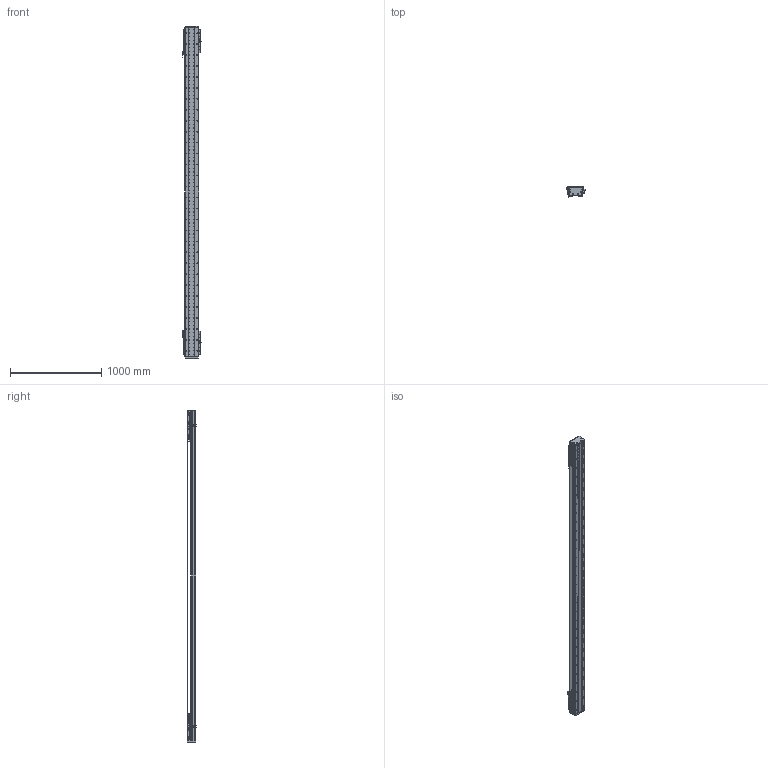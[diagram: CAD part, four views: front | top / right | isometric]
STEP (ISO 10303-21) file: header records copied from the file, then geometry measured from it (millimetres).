
FILE_DESCRIPTION (( 'STEP AP203' ), '1' );
FILE_NAME ('DA-C145-2-C3-T3020-C010-0.2 眻盄萇儂.STEP', '2025-08-14T00:39:28', ( '' ), ( '' ), 'SwSTEP 2.0', 'SolidWorks 2019', '' );
FILE_SCHEMA (( 'CONFIG_CONTROL_DESIGN' ));
Length unit declared in the file: millimetre
Products named in the file (38): 复件 内六角平端紧定螺钉 GB.T77-2000 M5×10^CU145-W 滚珠滑台; IU-CU145-L 菁釱絳寢; 葩璃 CKM03-W060-C1C2-TP-0.2^DA-C145-2-C3-T-C010-0.2; 66245-CU145-HT-W-00 賑雄怢啣(3D芞祧)(00); CU145-W 幗紩賑怢; 葩璃 PM-Y65^DA-C145-2-C3-T-C010-0.2; CU145-W 幗紩賑怢-1; 葩璃 CKMA01-W060-TRL^DA-C145-2-C3-T-C010-0.2; CU145-W-00 珨极趙賑雄怢啣; 葩璃 DA95-GT-T-00^IU-CU145-L 菁釱絳寢; 复件 DA146 钢带拉块^复件 CU145 钢带组件_DA-C145-2-C3-T-C010-0.2; 复件 纯铜油杯 6x6mm^CU145-W 滚珠滑台; TAY01-M8; 复件 DA95-HK-GT-00 滑块钢轨^CU145-W-00 一体化滑动台板; 复件 DA145-C3-YB-B-00 压板B^CU145-W 滚珠滑台; DA-C145-2-C3-T3020-C010-0.2 眻盄萇儂; 复件 半圆头内六角螺钉 M3×6^CU145-W 滚珠滑台; 葩璃 XD-U-02L 棠掑喜^DA-C145-2-C3-T-C010-0.2; 复件 DA145-DG 钢带端盖^复件 CU145 钢带组件_DA-C145-2-C3-T-C010-0.2; 葩璃 DMA-010-0.2 黍杅芛^DA-C145-2-C3-T-C010-0.2; 复件 DA146 钢带垫块^复件 CU145 钢带组件_DA-C145-2-C3-T-C010-0.2; 复件 DA95-DB-00  挡板^CU145-W 滚珠滑台; 葩璃 CU145 詩湍郪璃^DA-C145-2-C3-T-C010-0.2; IU-CU145-L-00 菁釱(L3600); DKW-GYP-ZJ-00 笢潔嫖萇覜茼え; 葩璃 DA145-C3-DP-B-00 菜えB^CU145-W 幗紩賑怢; DKW168-HXJ-ZJ-00 笢潔滅袉砎蝶; 复件 DA145-C3-YB-A-00 压板A^CU145-W 滚珠滑台; 复件 DA145-GYP-00 光电感应片^DA-C145-2-C3-T-C010-0.2; 葩璃 PM-T45^DA-C145-2-C3-T-C010-0.2; 葩璃 DA145-C3-DP-A-00 菜えA^CU145-W 幗紩賑怢; DKW-KGZ-ZJ-00 中间光电开关支架; 葩璃 DA95-HXJ-00 遣喳砎蝶^DA-C145-2-C3-T-C010-0.2; 复件 DA145 钢带^复件 CU145 钢带组件_DA-C145-2-C3-T-C010-0.2; 复件 DA145-C3-DK-00 挡块^CU145-W 滚珠滑台; CU145-W-00 珨极趙賑雄怢啣-1; 葩璃 鞠褒情蹟譫 M3^DA-C145-2-C3-T-C010-0.2; 复件 DA95-MFP-01 密封片^CU145-W 滚珠滑台
Assembly tree (180 placements, depth 4):
  DA-C145-2-C3-T3020-C010-0.2 眻盄萇儂
    IU-CU145-L 菁釱絳寢
      IU-CU145-L-00 菁釱(L3600)
      葩璃 DA95-GT-T-00^IU-CU145-L 菁釱絳寢  x4
    葩璃 CU145 詩湍郪璃^DA-C145-2-C3-T-C010-0.2
      复件 DA145-DG 钢带端盖^复件 CU145 钢带组件_DA-C145-2-C3-T-C010-0.2  x2
      复件 DA146 钢带拉块^复件 CU145 钢带组件_DA-C145-2-C3-T-C010-0.2  x2
      复件 DA146 钢带垫块^复件 CU145 钢带组件_DA-C145-2-C3-T-C010-0.2  x2
      复件 DA145 钢带^复件 CU145 钢带组件_DA-C145-2-C3-T-C010-0.2
    CU145-W 幗紩賑怢
      CU145-W-00 珨极趙賑雄怢啣
        66245-CU145-HT-W-00 賑雄怢啣(3D芞祧)(00)
        复件 DA95-HK-GT-00 滑块钢轨^CU145-W-00 一体化滑动台板  x8
      复件 DA95-MFP-01 密封片^CU145-W 滚珠滑台  x8
      复件 DA95-DB-00  挡板^CU145-W 滚珠滑台  x8
      复件 内六角平端紧定螺钉 GB.T77-2000 M5×10^CU145-W 滚珠滑台  x4
      复件 纯铜油杯 6x6mm^CU145-W 滚珠滑台  x4
      复件 半圆头内六角螺钉 M3×6^CU145-W 滚珠滑台  x16
      复件 DA145-C3-DK-00 挡块^CU145-W 滚珠滑台  x4
      葩璃 DA145-C3-DP-B-00 菜えB^CU145-W 幗紩賑怢  x2
      复件 DA145-C3-YB-B-00 压板B^CU145-W 滚珠滑台  x2
      葩璃 DA145-C3-DP-A-00 菜えA^CU145-W 幗紩賑怢  x3
      复件 DA145-C3-YB-A-00 压板A^CU145-W 滚珠滑台  x3
      TAY01-M8  x4
    CU145-W 幗紩賑怢-1
      CU145-W-00 珨极趙賑雄怢啣-1
        66245-CU145-HT-W-00 賑雄怢啣(3D芞祧)(00)
        复件 DA95-HK-GT-00 滑块钢轨^CU145-W-00 一体化滑动台板  x8
      复件 DA95-MFP-01 密封片^CU145-W 滚珠滑台  x8
      复件 DA95-DB-00  挡板^CU145-W 滚珠滑台  x8
      复件 内六角平端紧定螺钉 GB.T77-2000 M5×10^CU145-W 滚珠滑台  x4
      复件 纯铜油杯 6x6mm^CU145-W 滚珠滑台  x4
      复件 半圆头内六角螺钉 M3×6^CU145-W 滚珠滑台  x16
      复件 DA145-C3-DK-00 挡块^CU145-W 滚珠滑台  x4
      葩璃 DA145-C3-DP-B-00 菜えB^CU145-W 幗紩賑怢  x2
      复件 DA145-C3-YB-B-00 压板B^CU145-W 滚珠滑台  x2
      葩璃 DA145-C3-DP-A-00 菜えA^CU145-W 幗紩賑怢  x3
      复件 DA145-C3-YB-A-00 压板A^CU145-W 滚珠滑台  x3
      TAY01-M8  x4
    葩璃 CKMA01-W060-TRL^DA-C145-2-C3-T-C010-0.2
    葩璃 PM-T45^DA-C145-2-C3-T-C010-0.2  x4
    葩璃 XD-U-02L 棠掑喜^DA-C145-2-C3-T-C010-0.2
    葩璃 DA95-HXJ-00 遣喳砎蝶^DA-C145-2-C3-T-C010-0.2  x4
    葩璃 CKM03-W060-C1C2-TP-0.2^DA-C145-2-C3-T-C010-0.2  x2
    葩璃 DMA-010-0.2 黍杅芛^DA-C145-2-C3-T-C010-0.2  x2
    复件 DA145-GYP-00 光电感应片^DA-C145-2-C3-T-C010-0.2  x2
    DKW-GYP-ZJ-00 笢潔嫖萇覜茼え
    DKW-KGZ-ZJ-00 中间光电开关支架
    葩璃 PM-Y65^DA-C145-2-C3-T-C010-0.2
    葩璃 鞠褒情蹟譫 M3^DA-C145-2-C3-T-C010-0.2  x8
    DKW168-HXJ-ZJ-00 笢潔滅袉砎蝶
Bounding box: 213.7 x 108.45 x 3636 mm (x, y, z)
Volume: 18185194.6 mm3; surface area: 5938936.1 mm2
Topology: 175 solids, 239 shells, 7965 faces, 22155 edges, 13789 vertices
Faces by surface type: cylinder 3658, plane 2967, cone 1184, torus 140, sphere 8, bspline 8
Entity records: 164638 total; most frequent: CARTESIAN_POINT 50462, ORIENTED_EDGE 22996, DIRECTION 21347, EDGE_CURVE 11498, AXIS2_PLACEMENT_3D 7897, VERTEX_POINT 7488, VECTOR 5553, LINE 5553
